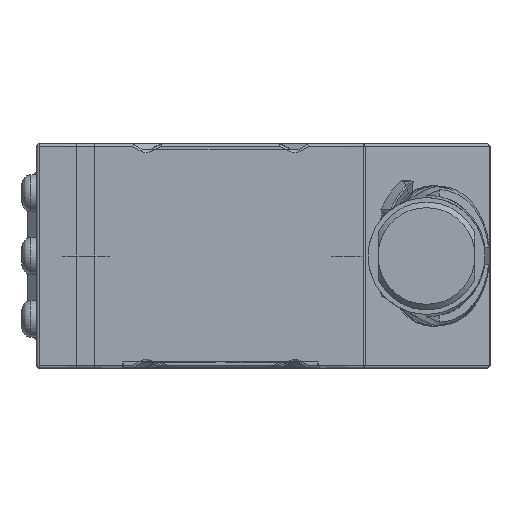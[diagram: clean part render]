
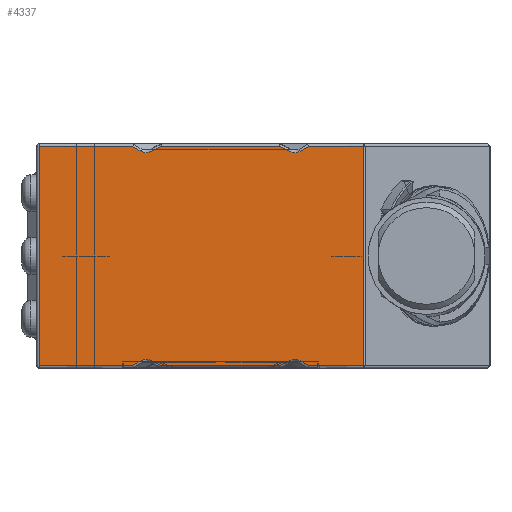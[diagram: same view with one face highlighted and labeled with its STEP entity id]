
A CAD part, left-side view. The second image highlights one B-rep face of the part: STEP entity #4337.
In plain terms, the highlighted planar face has unit normal (-1, 0, 0).
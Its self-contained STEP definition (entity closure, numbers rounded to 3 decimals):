
#157=B_SPLINE_CURVE_WITH_KNOTS('',3,(#7820,#7821,#7822,#7823),
 .UNSPECIFIED.,.F.,.F.,(4,4),(-0.279,-0.153),
 .UNSPECIFIED.);
#159=B_SPLINE_CURVE_WITH_KNOTS('',3,(#7888,#7889,#7890,#7891,#7892,#7893),
 .UNSPECIFIED.,.F.,.F.,(4,1,1,4),(-0.12,-0.068,
-0.034,0.),.UNSPECIFIED.);
#161=B_SPLINE_CURVE_WITH_KNOTS('',3,(#7916,#7917,#7918,#7919),
 .UNSPECIFIED.,.F.,.F.,(4,4),(-0.108,0.),
 .UNSPECIFIED.);
#164=B_SPLINE_CURVE_WITH_KNOTS('',3,(#7947,#7948,#7949,#7950),
 .UNSPECIFIED.,.F.,.F.,(4,4),(-0.181,-0.073),
 .UNSPECIFIED.);
#165=B_SPLINE_CURVE_WITH_KNOTS('',3,(#7990,#7991,#7992,#7993,#7994,#7995),
 .UNSPECIFIED.,.F.,.F.,(4,1,1,4),(-0.12,-0.085,
-0.051,0.),.UNSPECIFIED.);
#167=B_SPLINE_CURVE_WITH_KNOTS('',3,(#8027,#8028,#8029,#8030),
 .UNSPECIFIED.,.F.,.F.,(4,4),(-0.125,0.),
 .UNSPECIFIED.);
#175=B_SPLINE_CURVE_WITH_KNOTS('',3,(#8219,#8220,#8221,#8222),
 .UNSPECIFIED.,.F.,.F.,(4,4),(-0.22,-0.112),
 .UNSPECIFIED.);
#176=B_SPLINE_CURVE_WITH_KNOTS('',3,(#8262,#8263,#8264,#8265,#8266,#8267),
 .UNSPECIFIED.,.F.,.F.,(4,1,1,4),(-0.12,-0.085,
-0.051,0.),.UNSPECIFIED.);
#178=B_SPLINE_CURVE_WITH_KNOTS('',3,(#8298,#8299,#8300,#8301),
 .UNSPECIFIED.,.F.,.F.,(4,4),(-0.125,0.),
 .UNSPECIFIED.);
#182=B_SPLINE_CURVE_WITH_KNOTS('',3,(#8358,#8359,#8360,#8361),
 .UNSPECIFIED.,.F.,.F.,(4,4),(-0.279,-0.153),
 .UNSPECIFIED.);
#184=B_SPLINE_CURVE_WITH_KNOTS('',3,(#8420,#8421,#8422,#8423,#8424),
 .UNSPECIFIED.,.F.,.F.,(4,1,4),(-0.119,-0.051,0.),
 .UNSPECIFIED.);
#186=B_SPLINE_CURVE_WITH_KNOTS('',3,(#8446,#8447,#8448,#8449),
 .UNSPECIFIED.,.F.,.F.,(4,4),(-0.108,0.),.UNSPECIFIED.);
#746=FACE_OUTER_BOUND('',#1015,.T.);
#1015=EDGE_LOOP('',(#3475,#3476,#3477,#3478,#3479,#3480,#3481,#3482,#3483,
#3484,#3485,#3486,#3487,#3488,#3489,#3490,#3491,#3492,#3493,#3494));
#1256=LINE('',#7434,#1511);
#1258=LINE('',#7530,#1513);
#1262=LINE('',#7608,#1517);
#1264=LINE('',#7612,#1519);
#1267=LINE('',#7751,#1522);
#1272=LINE('',#8108,#1527);
#1274=LINE('',#8156,#1529);
#1276=LINE('',#8195,#1531);
#1511=VECTOR('',#5608,10.);
#1513=VECTOR('',#5626,10.);
#1517=VECTOR('',#5676,10.);
#1519=VECTOR('',#5680,10.);
#1522=VECTOR('',#5707,10.);
#1527=VECTOR('',#5728,10.);
#1529=VECTOR('',#5732,10.);
#1531=VECTOR('',#5736,10.);
#1839=VERTEX_POINT('',#7427);
#1841=VERTEX_POINT('',#7433);
#1844=VERTEX_POINT('',#7473);
#1848=VERTEX_POINT('',#7485);
#1849=VERTEX_POINT('',#7529);
#1853=VERTEX_POINT('',#7590);
#1857=VERTEX_POINT('',#7604);
#1858=VERTEX_POINT('',#7611);
#1863=VERTEX_POINT('',#7750);
#1867=VERTEX_POINT('',#7818);
#1869=VERTEX_POINT('',#7886);
#1871=VERTEX_POINT('',#7945);
#1873=VERTEX_POINT('',#7988);
#1874=VERTEX_POINT('',#8026);
#1877=VERTEX_POINT('',#8107);
#1879=VERTEX_POINT('',#8155);
#1882=VERTEX_POINT('',#8217);
#1884=VERTEX_POINT('',#8260);
#1888=VERTEX_POINT('',#8356);
#1890=VERTEX_POINT('',#8418);
#2344=EDGE_CURVE('',#1839,#1841,#1256,.T.);
#2354=EDGE_CURVE('',#1848,#1849,#1258,.T.);
#2373=EDGE_CURVE('',#1853,#1857,#1262,.T.);
#2375=EDGE_CURVE('',#1857,#1858,#1264,.T.);
#2391=EDGE_CURVE('',#1863,#1853,#1267,.T.);
#2396=EDGE_CURVE('',#1867,#1848,#157,.T.);
#2399=EDGE_CURVE('',#1869,#1867,#159,.T.);
#2401=EDGE_CURVE('',#1858,#1869,#161,.T.);
#2405=EDGE_CURVE('',#1871,#1863,#164,.T.);
#2407=EDGE_CURVE('',#1873,#1871,#165,.T.);
#2409=EDGE_CURVE('',#1874,#1873,#167,.T.);
#2417=EDGE_CURVE('',#1877,#1874,#1272,.T.);
#2420=EDGE_CURVE('',#1879,#1844,#1274,.T.);
#2424=EDGE_CURVE('',#1844,#1839,#1276,.T.);
#2427=EDGE_CURVE('',#1882,#1879,#175,.T.);
#2429=EDGE_CURVE('',#1884,#1882,#176,.T.);
#2431=EDGE_CURVE('',#1849,#1884,#178,.T.);
#2436=EDGE_CURVE('',#1888,#1877,#182,.T.);
#2439=EDGE_CURVE('',#1890,#1888,#184,.T.);
#2441=EDGE_CURVE('',#1841,#1890,#186,.T.);
#3475=ORIENTED_EDGE('',*,*,#2420,.F.);
#3476=ORIENTED_EDGE('',*,*,#2427,.F.);
#3477=ORIENTED_EDGE('',*,*,#2429,.F.);
#3478=ORIENTED_EDGE('',*,*,#2431,.F.);
#3479=ORIENTED_EDGE('',*,*,#2354,.F.);
#3480=ORIENTED_EDGE('',*,*,#2396,.F.);
#3481=ORIENTED_EDGE('',*,*,#2399,.F.);
#3482=ORIENTED_EDGE('',*,*,#2401,.F.);
#3483=ORIENTED_EDGE('',*,*,#2375,.F.);
#3484=ORIENTED_EDGE('',*,*,#2373,.F.);
#3485=ORIENTED_EDGE('',*,*,#2391,.F.);
#3486=ORIENTED_EDGE('',*,*,#2405,.F.);
#3487=ORIENTED_EDGE('',*,*,#2407,.F.);
#3488=ORIENTED_EDGE('',*,*,#2409,.F.);
#3489=ORIENTED_EDGE('',*,*,#2417,.F.);
#3490=ORIENTED_EDGE('',*,*,#2436,.F.);
#3491=ORIENTED_EDGE('',*,*,#2439,.F.);
#3492=ORIENTED_EDGE('',*,*,#2441,.F.);
#3493=ORIENTED_EDGE('',*,*,#2344,.F.);
#3494=ORIENTED_EDGE('',*,*,#2424,.F.);
#3858=PLANE('',#4783);
#4337=ADVANCED_FACE('',(#746),#3858,.T.);
#4783=AXIS2_PLACEMENT_3D('',#8527,#5794,#5795);
#5608=DIRECTION('',(0.,1.,0.));
#5626=DIRECTION('',(0.,-1.,0.));
#5676=DIRECTION('',(0.,0.,1.));
#5680=DIRECTION('',(0.,-1.,0.));
#5707=DIRECTION('',(0.,1.,0.));
#5728=DIRECTION('',(0.,1.,0.));
#5732=DIRECTION('',(0.,-1.,0.));
#5736=DIRECTION('',(0.,0.,-1.));
#5794=DIRECTION('center_axis',(-1.,0.,0.));
#5795=DIRECTION('ref_axis',(0.,1.,0.));
#7427=CARTESIAN_POINT('',(-48.87,14.124,-12.2));
#7433=CARTESIAN_POINT('',(-48.87,20.215,-12.2));
#7434=CARTESIAN_POINT('',(-48.87,12.71,-12.2));
#7473=CARTESIAN_POINT('',(-48.87,14.124,12.2));
#7485=CARTESIAN_POINT('',(-48.87,36.579,12.2));
#7529=CARTESIAN_POINT('',(-48.87,23.421,12.2));
#7530=CARTESIAN_POINT('',(-48.87,12.71,12.2));
#7590=CARTESIAN_POINT('',(-48.87,50.2,-12.2));
#7604=CARTESIAN_POINT('',(-48.87,50.2,12.2));
#7608=CARTESIAN_POINT('',(-48.87,50.2,0.));
#7611=CARTESIAN_POINT('',(-48.87,39.785,12.2));
#7612=CARTESIAN_POINT('',(-48.87,12.71,12.2));
#7750=CARTESIAN_POINT('',(-48.87,39.785,-12.2));
#7751=CARTESIAN_POINT('',(-48.87,12.71,-12.2));
#7818=CARTESIAN_POINT('',(-48.87,37.701,11.644));
#7820=CARTESIAN_POINT('Ctrl Pts',(-48.87,37.701,11.644));
#7821=CARTESIAN_POINT('Ctrl Pts',(-48.87,37.331,11.838));
#7822=CARTESIAN_POINT('Ctrl Pts',(-48.87,36.958,12.024));
#7823=CARTESIAN_POINT('Ctrl Pts',(-48.87,36.579,12.2));
#7886=CARTESIAN_POINT('',(-48.87,38.854,11.644));
#7888=CARTESIAN_POINT('Ctrl Pts',(-48.87,38.854,11.644));
#7889=CARTESIAN_POINT('Ctrl Pts',(-48.87,38.706,11.558));
#7890=CARTESIAN_POINT('Ctrl Pts',(-48.87,38.421,11.497));
#7891=CARTESIAN_POINT('Ctrl Pts',(-48.87,38.022,11.523));
#7892=CARTESIAN_POINT('Ctrl Pts',(-48.87,37.802,11.591));
#7893=CARTESIAN_POINT('Ctrl Pts',(-48.87,37.701,11.644));
#7916=CARTESIAN_POINT('Ctrl Pts',(-48.87,39.785,12.2));
#7917=CARTESIAN_POINT('Ctrl Pts',(-48.87,39.477,12.01));
#7918=CARTESIAN_POINT('Ctrl Pts',(-48.87,39.167,11.825));
#7919=CARTESIAN_POINT('Ctrl Pts',(-48.87,38.854,11.644));
#7945=CARTESIAN_POINT('',(-48.87,38.854,-11.644));
#7947=CARTESIAN_POINT('Ctrl Pts',(-48.87,38.854,-11.644));
#7948=CARTESIAN_POINT('Ctrl Pts',(-48.87,39.167,-11.825));
#7949=CARTESIAN_POINT('Ctrl Pts',(-48.87,39.477,-12.01));
#7950=CARTESIAN_POINT('Ctrl Pts',(-48.87,39.785,-12.2));
#7988=CARTESIAN_POINT('',(-48.87,37.701,-11.644));
#7990=CARTESIAN_POINT('Ctrl Pts',(-48.87,37.701,-11.644));
#7991=CARTESIAN_POINT('Ctrl Pts',(-48.87,37.802,-11.591));
#7992=CARTESIAN_POINT('Ctrl Pts',(-48.87,38.022,-11.523));
#7993=CARTESIAN_POINT('Ctrl Pts',(-48.87,38.42,-11.497));
#7994=CARTESIAN_POINT('Ctrl Pts',(-48.87,38.706,-11.558));
#7995=CARTESIAN_POINT('Ctrl Pts',(-48.87,38.854,-11.644));
#8026=CARTESIAN_POINT('',(-48.87,36.579,-12.2));
#8027=CARTESIAN_POINT('Ctrl Pts',(-48.87,36.579,-12.2));
#8028=CARTESIAN_POINT('Ctrl Pts',(-48.87,36.958,-12.024));
#8029=CARTESIAN_POINT('Ctrl Pts',(-48.87,37.331,-11.838));
#8030=CARTESIAN_POINT('Ctrl Pts',(-48.87,37.701,-11.644));
#8107=CARTESIAN_POINT('',(-48.87,23.421,-12.2));
#8108=CARTESIAN_POINT('',(-48.87,12.71,-12.2));
#8155=CARTESIAN_POINT('',(-48.87,20.215,12.2));
#8156=CARTESIAN_POINT('',(-48.87,12.71,12.2));
#8195=CARTESIAN_POINT('',(-48.87,14.124,0.));
#8217=CARTESIAN_POINT('',(-48.87,21.146,11.644));
#8219=CARTESIAN_POINT('Ctrl Pts',(-48.87,21.146,11.644));
#8220=CARTESIAN_POINT('Ctrl Pts',(-48.87,20.833,11.825));
#8221=CARTESIAN_POINT('Ctrl Pts',(-48.87,20.523,12.01));
#8222=CARTESIAN_POINT('Ctrl Pts',(-48.87,20.215,12.2));
#8260=CARTESIAN_POINT('',(-48.87,22.299,11.644));
#8262=CARTESIAN_POINT('Ctrl Pts',(-48.87,22.299,11.644));
#8263=CARTESIAN_POINT('Ctrl Pts',(-48.87,22.198,11.591));
#8264=CARTESIAN_POINT('Ctrl Pts',(-48.87,21.978,11.523));
#8265=CARTESIAN_POINT('Ctrl Pts',(-48.87,21.58,11.497));
#8266=CARTESIAN_POINT('Ctrl Pts',(-48.87,21.294,11.558));
#8267=CARTESIAN_POINT('Ctrl Pts',(-48.87,21.146,11.644));
#8298=CARTESIAN_POINT('Ctrl Pts',(-48.87,23.421,12.2));
#8299=CARTESIAN_POINT('Ctrl Pts',(-48.87,23.042,12.024));
#8300=CARTESIAN_POINT('Ctrl Pts',(-48.87,22.669,11.838));
#8301=CARTESIAN_POINT('Ctrl Pts',(-48.87,22.299,11.644));
#8356=CARTESIAN_POINT('',(-48.87,22.299,-11.644));
#8358=CARTESIAN_POINT('Ctrl Pts',(-48.87,22.299,-11.644));
#8359=CARTESIAN_POINT('Ctrl Pts',(-48.87,22.669,-11.838));
#8360=CARTESIAN_POINT('Ctrl Pts',(-48.87,23.042,-12.024));
#8361=CARTESIAN_POINT('Ctrl Pts',(-48.87,23.421,-12.2));
#8418=CARTESIAN_POINT('',(-48.87,21.146,-11.644));
#8420=CARTESIAN_POINT('Ctrl Pts',(-48.87,21.146,-11.644));
#8421=CARTESIAN_POINT('Ctrl Pts',(-48.87,21.343,-11.53));
#8422=CARTESIAN_POINT('Ctrl Pts',(-48.87,21.755,-11.477));
#8423=CARTESIAN_POINT('Ctrl Pts',(-48.87,22.148,-11.565));
#8424=CARTESIAN_POINT('Ctrl Pts',(-48.87,22.299,-11.644));
#8446=CARTESIAN_POINT('Ctrl Pts',(-48.87,20.215,-12.2));
#8447=CARTESIAN_POINT('Ctrl Pts',(-48.87,20.523,-12.01));
#8448=CARTESIAN_POINT('Ctrl Pts',(-48.87,20.833,-11.825));
#8449=CARTESIAN_POINT('Ctrl Pts',(-48.87,21.146,-11.644));
#8527=CARTESIAN_POINT('Origin',(-48.87,0.,0.));
